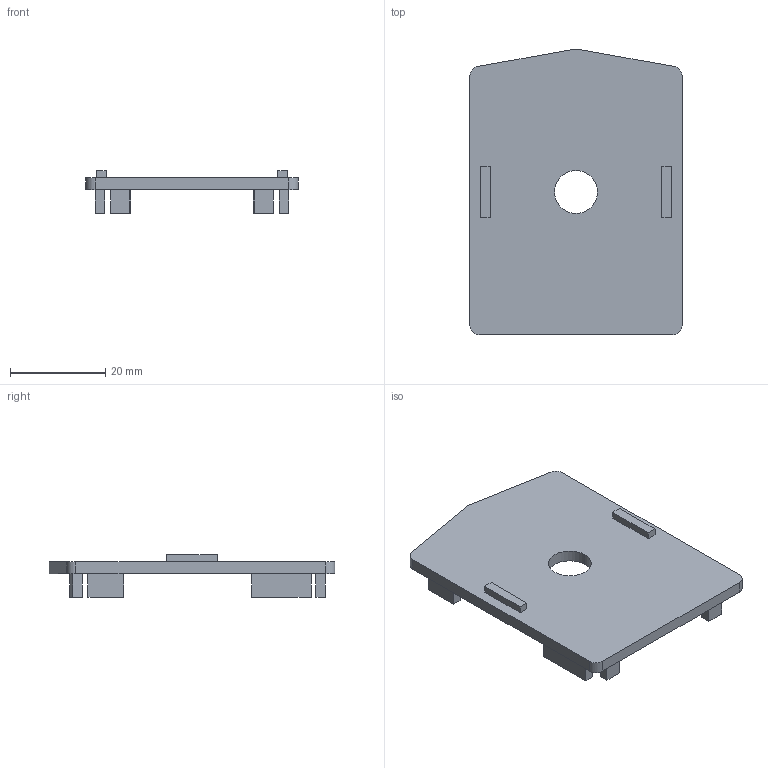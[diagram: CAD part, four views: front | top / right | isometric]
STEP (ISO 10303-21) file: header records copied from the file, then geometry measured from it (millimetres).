
FILE_DESCRIPTION (( 'STEP AP214' ), '1' );
FILE_NAME ('FGRD 3D.step', '2017-04-05T07:39:35', ( '' ), ( '' ), 'SwSTEP 2.0', 'SolidWorks 2015', '' );
FILE_SCHEMA (( 'AUTOMOTIVE_DESIGN' ));
Length unit declared in the file: millimetre
Products named in the file (1): FGRD 3D
Bounding box: 44.5 x 59.96 x 9 mm (x, y, z)
Volume: 6895.9 mm3; surface area: 6378.5 mm2
Topology: 1 solids, 1 shells, 64 faces, 156 edges, 104 vertices
Faces by surface type: plane 57, cylinder 7
Entity records: 1892 total; most frequent: CARTESIAN_POINT 325, ORIENTED_EDGE 312, DIRECTION 300, EDGE_CURVE 156, LINE 142, VECTOR 142, VERTEX_POINT 104, AXIS2_PLACEMENT_3D 79
